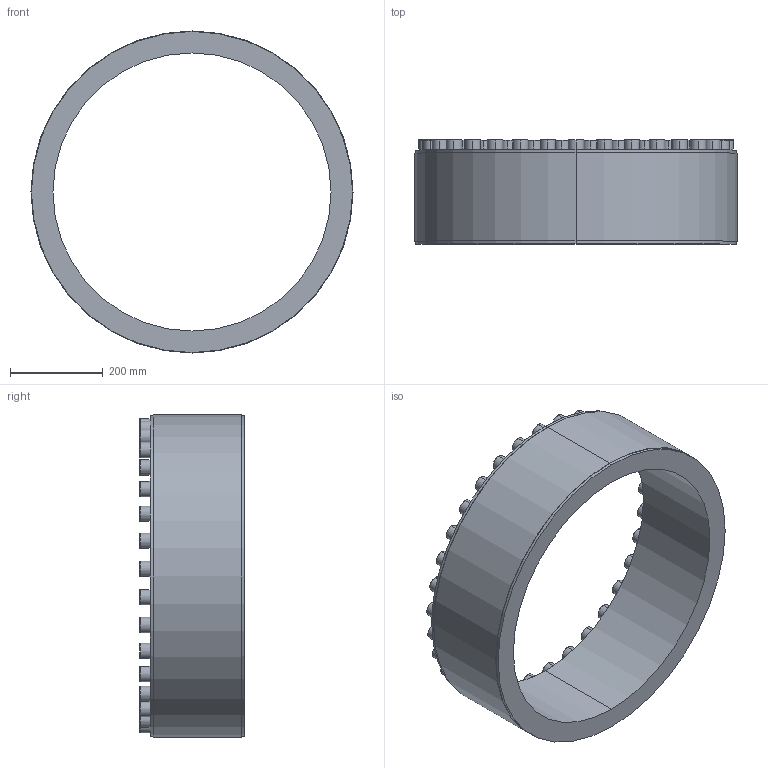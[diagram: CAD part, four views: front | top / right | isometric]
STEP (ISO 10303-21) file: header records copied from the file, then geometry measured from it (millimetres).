
FILE_DESCRIPTION (( 'STEP AP203' ), '1' );
FILE_NAME ('PL-D1 600-695.STEP', '2021-10-23T00:28:47', ( '' ), ( '' ), 'SwSTEP 2.0', 'SolidWorks 2018', '' );
FILE_SCHEMA (( 'CONFIG_CONTROL_DESIGN' ));
Length unit declared in the file: millimetre
Products named in the file (1): PL-D1 600-695
Bounding box: 695 x 225 x 695 mm (x, y, z)
Volume: 20116161.5 mm3; surface area: 1114948.5 mm2
Topology: 1 solids, 1 shells, 408 faces, 948 edges, 610 vertices
Faces by surface type: plane 268, cylinder 74, torus 66
Entity records: 11625 total; most frequent: DIRECTION 2046, CARTESIAN_POINT 1967, ORIENTED_EDGE 1896, EDGE_CURVE 948, AXIS2_PLACEMENT_3D 689, LINE 668, VECTOR 668, VERTEX_POINT 610
